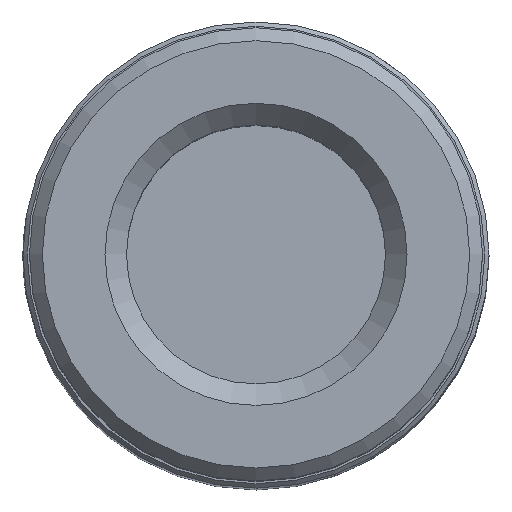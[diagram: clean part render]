
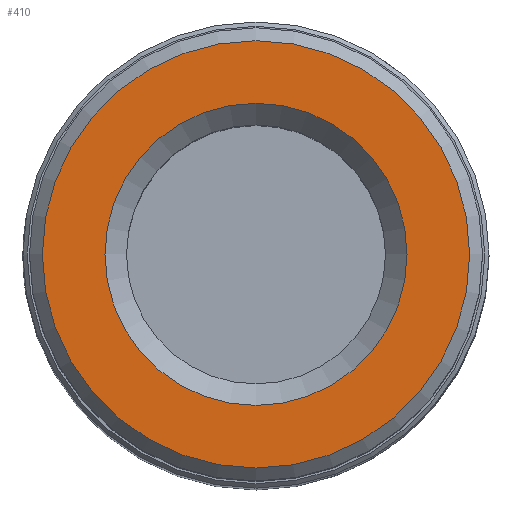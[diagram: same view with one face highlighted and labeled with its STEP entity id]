
A CAD part, top view. The second image highlights one B-rep face of the part: STEP entity #410.
In plain terms, the highlighted planar face has unit normal (0, 0, 1).
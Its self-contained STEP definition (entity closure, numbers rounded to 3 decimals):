
#34=PLANE('',#478);
#67=FACE_BOUND('',#161,.T.);
#103=FACE_OUTER_BOUND('',#160,.T.);
#160=EDGE_LOOP('',(#342));
#161=EDGE_LOOP('',(#343));
#215=CIRCLE('',#477,4.95);
#216=CIRCLE('',#479,3.5);
#249=VERTEX_POINT('',#724);
#250=VERTEX_POINT('',#727);
#286=EDGE_CURVE('',#249,#249,#215,.T.);
#287=EDGE_CURVE('',#250,#250,#216,.T.);
#342=ORIENTED_EDGE('',*,*,#286,.T.);
#343=ORIENTED_EDGE('',*,*,#287,.F.);
#410=ADVANCED_FACE('',(#103,#67),#34,.T.);
#477=AXIS2_PLACEMENT_3D('',#725,#596,#597);
#478=AXIS2_PLACEMENT_3D('',#726,#598,#599);
#479=AXIS2_PLACEMENT_3D('',#728,#600,#601);
#596=DIRECTION('center_axis',(0.,0.,1.));
#597=DIRECTION('ref_axis',(1.,0.,0.));
#598=DIRECTION('center_axis',(0.,0.,1.));
#599=DIRECTION('ref_axis',(1.,0.,0.));
#600=DIRECTION('center_axis',(0.,0.,1.));
#601=DIRECTION('ref_axis',(1.,0.,0.));
#724=CARTESIAN_POINT('',(0.,-4.95,21.5));
#725=CARTESIAN_POINT('Origin',(0.,0.,21.5));
#726=CARTESIAN_POINT('Origin',(0.,-3.5,21.5));
#727=CARTESIAN_POINT('',(0.,-3.5,21.5));
#728=CARTESIAN_POINT('Origin',(0.,0.,21.5));
